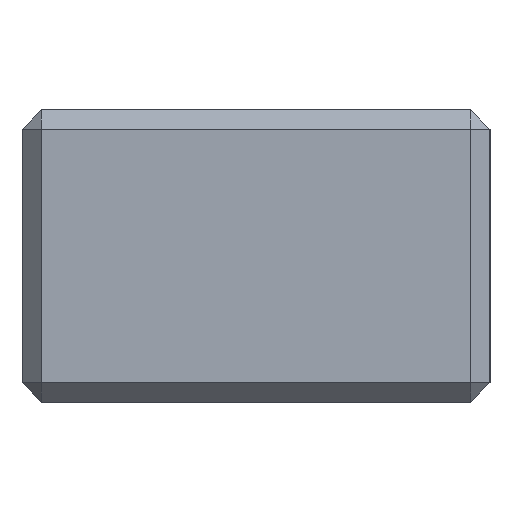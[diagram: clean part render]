
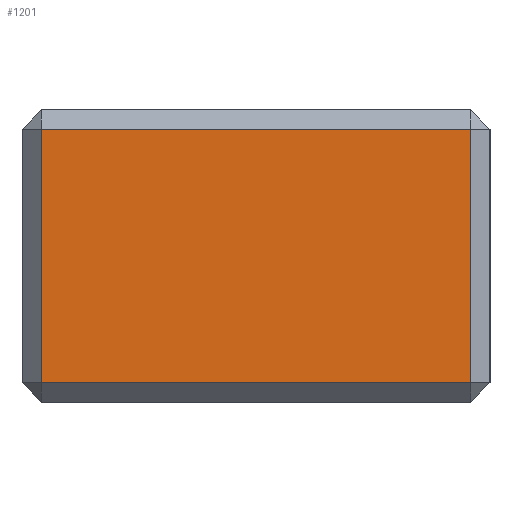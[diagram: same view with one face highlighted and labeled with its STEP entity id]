
A CAD part, left-side view. The second image highlights one B-rep face of the part: STEP entity #1201.
In plain terms, the highlighted planar face has unit normal (-1, 0, 0).
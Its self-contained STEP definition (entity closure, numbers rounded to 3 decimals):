
#22 = DIRECTION ( 'NONE',  ( 0., 0., -1. ) ) ;
#48 = VERTEX_POINT ( 'NONE', #237 ) ;
#114 = DIRECTION ( 'NONE',  ( 1., 0., 0. ) ) ;
#165 = LINE ( 'NONE', #1600, #1514 ) ;
#229 = CARTESIAN_POINT ( 'NONE',  ( -10., 6., 7. ) ) ;
#237 = CARTESIAN_POINT ( 'NONE',  ( -10., -5.5, 7. ) ) ;
#250 = ORIENTED_EDGE ( 'NONE', *, *, #880, .T. ) ;
#314 = FACE_OUTER_BOUND ( 'NONE', #518, .T. ) ;
#354 = VECTOR ( 'NONE', #525, 1000. ) ;
#381 = LINE ( 'NONE', #229, #354 ) ;
#393 = DIRECTION ( 'NONE',  ( 0., -1., 0. ) ) ;
#429 = CARTESIAN_POINT ( 'NONE',  ( -10., 5.5, 7. ) ) ;
#436 = ORIENTED_EDGE ( 'NONE', *, *, #1104, .T. ) ;
#518 = EDGE_LOOP ( 'NONE', ( #250, #642, #1765, #436 ) ) ;
#525 = DIRECTION ( 'NONE',  ( 0., 1., 0. ) ) ;
#599 = CARTESIAN_POINT ( 'NONE',  ( -10., 5.5, 0.5 ) ) ;
#642 = ORIENTED_EDGE ( 'NONE', *, *, #1735, .T. ) ;
#701 = VECTOR ( 'NONE', #1572, 1000. ) ;
#713 = CARTESIAN_POINT ( 'NONE',  ( -10., -5.5, 4.5 ) ) ;
#740 = LINE ( 'NONE', #1251, #764 ) ;
#764 = VECTOR ( 'NONE', #393, 1000. ) ;
#765 = LINE ( 'NONE', #713, #701 ) ;
#880 = EDGE_CURVE ( 'NONE', #1837, #1552, #165, .T. ) ;
#974 = CARTESIAN_POINT ( 'NONE',  ( -10., 6., 4.5 ) ) ;
#1080 = AXIS2_PLACEMENT_3D ( 'NONE', #974, #114, #1268 ) ;
#1104 = EDGE_CURVE ( 'NONE', #48, #1837, #381, .T. ) ;
#1201 = ADVANCED_FACE ( 'NONE', ( #314 ), #1829, .F. ) ;
#1251 = CARTESIAN_POINT ( 'NONE',  ( -10., 6., 0.5 ) ) ;
#1268 = DIRECTION ( 'NONE',  ( 0., 0., -1. ) ) ;
#1334 = CARTESIAN_POINT ( 'NONE',  ( -10., -5.5, 0.5 ) ) ;
#1436 = EDGE_CURVE ( 'NONE', #1459, #48, #765, .T. ) ;
#1459 = VERTEX_POINT ( 'NONE', #1334 ) ;
#1514 = VECTOR ( 'NONE', #22, 1000. ) ;
#1552 = VERTEX_POINT ( 'NONE', #599 ) ;
#1572 = DIRECTION ( 'NONE',  ( 0., 0., 1. ) ) ;
#1600 = CARTESIAN_POINT ( 'NONE',  ( -10., 5.5, 4.5 ) ) ;
#1735 = EDGE_CURVE ( 'NONE', #1552, #1459, #740, .T. ) ;
#1765 = ORIENTED_EDGE ( 'NONE', *, *, #1436, .T. ) ;
#1829 = PLANE ( 'NONE',  #1080 ) ;
#1837 = VERTEX_POINT ( 'NONE', #429 ) ;
